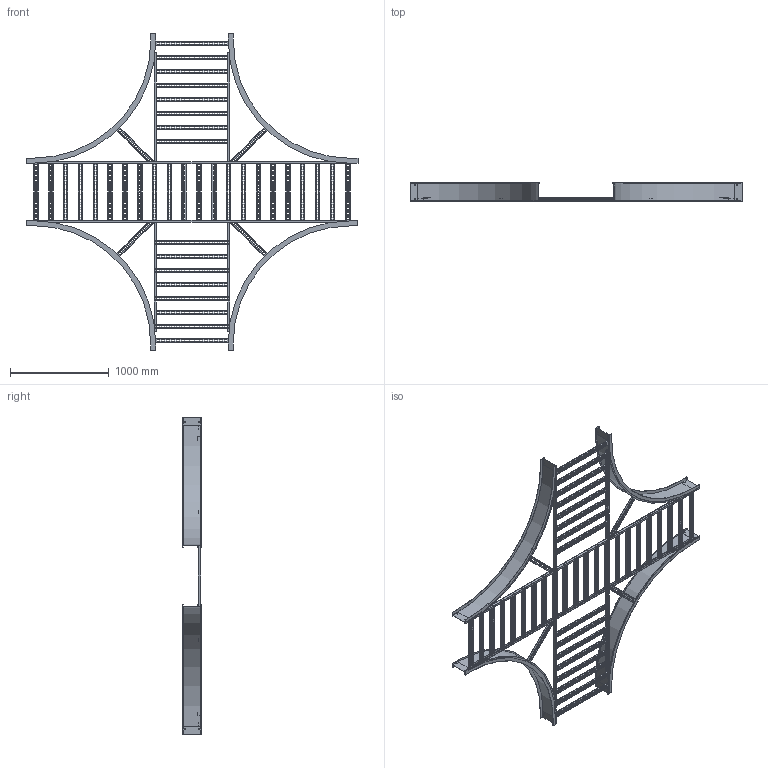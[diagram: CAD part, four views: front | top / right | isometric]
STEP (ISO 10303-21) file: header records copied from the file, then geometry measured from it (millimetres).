
FILE_DESCRIPTION((''),'2;1');
FILE_NAME('AHF72430VEX48_ASM','2010-02-03T',('erouzier'),(''),'PRO/ENGINEER BY PARAMETRIC TECHNOLOGY CORPORATION, 2008510','PRO/ENGINEER BY PARAMETRIC TECHNOLOGY CORPORATION, 2008510','');
FILE_SCHEMA(('CONFIG_CONTROL_DESIGN'));
Length unit declared in the file: inch
Products named in the file (29): CDS001813-7-90-48-I; CDS002159L24-P_AF23; CDS002159L24-P_AF24; CDS002159L24-P_AF25; CDS002159L24-P_AF26; CDS002159L24-P_AF32; CDS002159L24-P_AF34; CDS002159L24-P_AF36; CDS002159L24-P; CDS002159L24-P_AF27; CDS002159L24-P_AF28; CDS002159L24-P_AF29; CDS002159L24-P_AF31; CDS002159L24-P_AF33; CDS002159L24-P_AF35; CDS002159L24-P_AF37; CDS002159L24-P_AF30; CDS000495_GEN_AF18; CDS000495_GEN_AF19; CDS000495_GEN_AF22; CDS000495_GEN_AF23; CDS000495_GEN_AF20; CDS000495_GEN_AF21; CDS002159L24-P_AF21; CDS002159L24-P_AF22; CDS002159L24-P_AF19; CDS002159L24-P_AF20; CDS002159L30-P; AHF72430VEX48_ASM
Assembly tree (52 placements, depth 2):
  AHF72430VEX48_ASM
    CDS001813-7-90-48-I  x4
    CDS002159L24-P_AF23
    CDS002159L24-P_AF24
    CDS002159L24-P_AF25
    CDS002159L24-P_AF26
    CDS002159L24-P_AF32
    CDS002159L24-P_AF34
    CDS002159L24-P_AF36
    CDS002159L24-P  x7
    CDS002159L24-P_AF27
    CDS002159L24-P_AF28
    CDS002159L24-P_AF29
    CDS002159L24-P_AF31
    CDS002159L24-P_AF33
    CDS002159L24-P_AF35
    CDS002159L24-P_AF37
    CDS002159L24-P_AF30
    CDS000495_GEN_AF18
    CDS000495_GEN_AF19
    CDS000495_GEN_AF22
    CDS000495_GEN_AF23
    CDS000495_GEN_AF20
    CDS000495_GEN_AF21
    CDS002159L24-P_AF21
    CDS002159L24-P_AF22
    CDS002159L24-P_AF19
    CDS002159L24-P_AF20
    CDS002159L30-P  x16
Bounding box: 3358.39 x 183.9 x 3205.99 mm (x, y, z)
Volume: 11372659.5 mm3; surface area: 12205316.2 mm2
Topology: 52 solids, 52 shells, 9520 faces, 28248 edges, 18832 vertices
Faces by surface type: plane 5022, cylinder 4498
Entity records: 149141 total; most frequent: CARTESIAN_POINT 26201, ORIENTED_EDGE 25752, DIRECTION 25728, EDGE_CURVE 12876, VECTOR 8794, LINE 8794, VERTEX_POINT 8584, AXIS2_PLACEMENT_3D 8467
